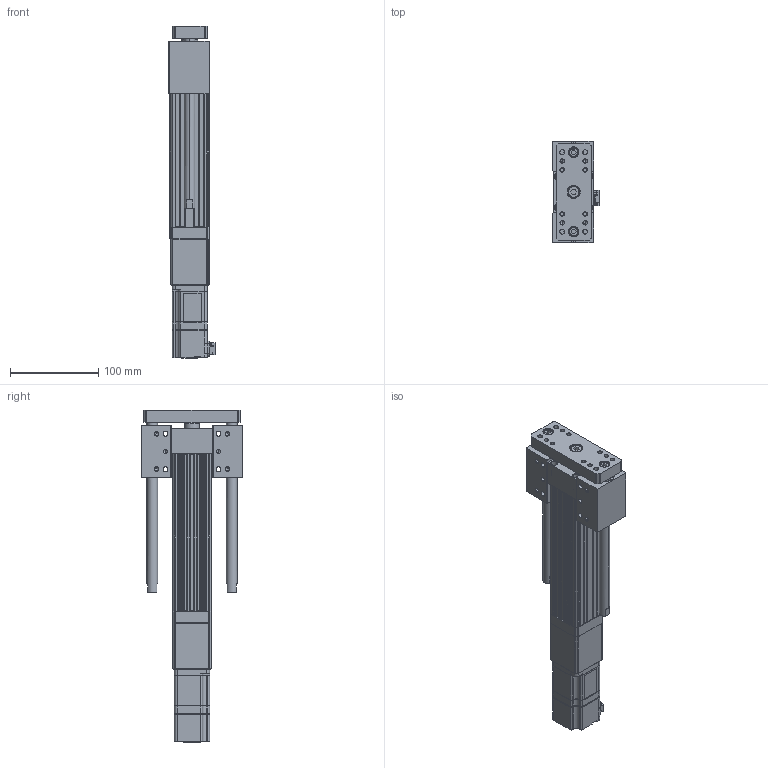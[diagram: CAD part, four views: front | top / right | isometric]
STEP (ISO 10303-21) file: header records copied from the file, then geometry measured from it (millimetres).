
FILE_DESCRIPTION (( 'STEP AP203' ), '1' );
FILE_NAME ('ANS045-HS100-05(10)-W10.STEP', '2019-02-14T02:59:38', ( 'user' ), ( '' ), 'SwSTEP 2.0', 'SolidWorks 2013', '' );
FILE_SCHEMA (( 'CONFIG_CONTROL_DESIGN' ));
Length unit declared in the file: millimetre
Products named in the file (4): SGMJV_01A_A21; ANS045-HS100-05(10)-W10; ANS045 HS100 VER2; ANS045 ROD ST100 H
Assembly tree (3 placements, depth 2):
  ANS045-HS100-05(10)-W10
    ANS045 HS100 VER2
    ANS045 ROD ST100 H
    SGMJV_01A_A21
Bounding box: 52.3 x 115 x 376.1 mm (x, y, z)
Volume: 755946.7 mm3; surface area: 194889.5 mm2
Topology: 3 solids, 7 shells, 1067 faces, 2681 edges, 1678 vertices
Faces by surface type: plane 542, cylinder 373, cone 150, bspline 2
Entity records: 31939 total; most frequent: CARTESIAN_POINT 5908, DIRECTION 5389, ORIENTED_EDGE 5290, EDGE_CURVE 2645, AXIS2_PLACEMENT_3D 1825, LINE 1739, VECTOR 1739, VERTEX_POINT 1678
